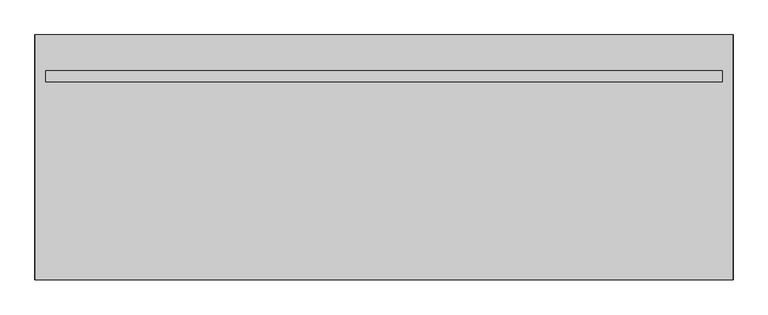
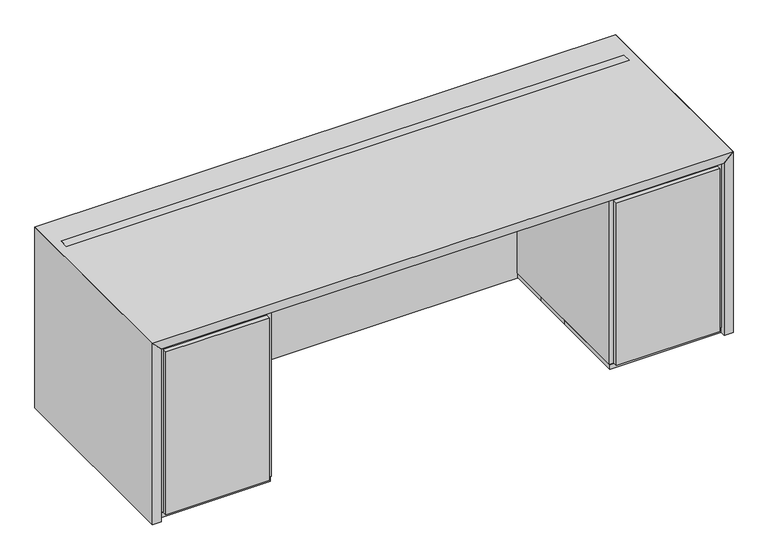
"""IFC4 building model written with IfcOpenShell, lengths in millimetres: proxy geometry, SALUTE^RECEPT_32x97 BASE-PARTS SOLID."""

from ifc_helpers import new_model, si_unit, frame, origin, place, context, project, spatial, polyline, outline, extrude, source, transform, mapped, element, save


def generic_models_c95edcf3(model_context):
    return source(origin(), model_context, "Body", "SweptSolid", [
        extrude(outline(polyline([(2425.7, 19.05), (2406.65, 19.05), (2406.65, 698.5), (2425.7, 698.5), (2425.7, 19.05)])), frame((0.0, 0.0, -749.3), z_axis=(0.0, 0.0, 1.0), x_axis=(1.0, 0.0, 0.0)), (0.0, 0.0, 1.0), 749.3),
        extrude(outline(polyline([(0.0, 2425.7), (-774.7, 2425.7), (-774.7, 2463.8), (38.1, 2463.8), (0.0, 2425.7)])), frame((0.0, 0.0, 0.0), z_axis=(0.0, 1.0, 0.0), x_axis=(0.0, 0.0, 1.0)), (0.0, 0.0, 1.0), 863.6),
        extrude(outline(polyline([(1968.5, 698.5), (2406.65, 698.5), (2406.65, 679.45), (1968.5, 679.45), (1968.5, 698.5)])), frame((0.0, 0.0, -749.3), z_axis=(0.0, 0.0, 1.0), x_axis=(1.0, 0.0, 0.0)), (0.0, 0.0, 1.0), 730.25),
        extrude(outline(polyline([(57.15, 19.05), (57.15, 698.5), (495.3, 698.5), (495.3, 19.05), (57.15, 19.05)])), frame((0.0, 0.0, -19.05), z_axis=(0.0, 0.0, 1.0), x_axis=(1.0, 0.0, 0.0)), (0.0, 0.0, 1.0), 19.05),
        extrude(outline(polyline([(2423.31875, 354.80625), (1951.83125, 354.80625), (1951.83125, 524.271875), (2423.31875, 524.271875), (2423.31875, 354.80625)])), frame((0.0, 0.0, -771.525), z_axis=(0.0, 0.0, 1.0), x_axis=(1.0, 0.0, 0.0)), (0.0, 0.0, 1.0), 19.05),
        extrude(outline(polyline([(57.15, 698.5), (495.3, 698.5), (495.3, 679.45), (57.15, 679.45), (57.15, 698.5)])), frame((0.0, 0.0, -749.3), z_axis=(0.0, 0.0, 1.0), x_axis=(1.0, 0.0, 0.0)), (0.0, 0.0, 1.0), 730.25),
        extrude(outline(polyline([(38.1, 698.5), (57.15, 698.5), (57.15, 19.05), (38.1, 19.05), (38.1, 698.5)])), frame((0.0, 0.0, -749.3), z_axis=(0.0, 0.0, 1.0), x_axis=(1.0, 0.0, 0.0)), (0.0, 0.0, 1.0), 749.3),
        extrude(outline(polyline([(38.1, 698.5), (38.1, 736.6), (2425.7, 736.6), (2425.7, 698.5), (38.1, 698.5)])), frame((0.0, 0.0, -774.7), z_axis=(0.0, 0.0, 1.0), x_axis=(1.0, 0.0, 0.0)), (0.0, 0.0, 1.0), 812.8),
        extrude(outline(polyline([(511.96875, 696.11875), (511.96875, 19.05), (40.48125, 19.05), (40.48125, 696.11875), (511.96875, 696.11875)])), frame((0.0, 0.0, -771.525), z_axis=(0.0, 0.0, 1.0), x_axis=(1.0, 0.0, 0.0)), (0.0, 0.0, 1.0), 19.05),
        extrude(outline(polyline([(2406.65, 698.5), (2406.65, 19.05), (1968.5, 19.05), (1968.5, 698.5), (2406.65, 698.5)])), frame((0.0, 0.0, -19.05), z_axis=(0.0, 0.0, 1.0), x_axis=(1.0, 0.0, 0.0)), (0.0, 0.0, 1.0), 19.05),
        extrude(outline(polyline([(495.3, 38.1), (495.3, 0.0), (57.15, 0.0), (57.15, 38.1), (495.3, 38.1)])), frame((0.0, 0.0, -749.3), z_axis=(0.0, 0.0, 1.0), x_axis=(1.0, 0.0, 0.0)), (0.0, 0.0, 1.0), 730.25),
        extrude(outline(polyline([(2406.65, 38.1), (2406.65, 0.0), (1968.5, 0.0), (1968.5, 38.1), (2406.65, 38.1)])), frame((0.0, 0.0, -749.3), z_axis=(0.0, 0.0, 1.0), x_axis=(1.0, 0.0, 0.0)), (0.0, 0.0, 1.0), 730.25),
        extrude(outline(polyline([(2423.31875, 526.653125), (1951.83125, 526.653125), (1951.83125, 696.11875), (2423.31875, 696.11875), (2423.31875, 526.653125)])), frame((0.0, 0.0, -771.525), z_axis=(0.0, 0.0, 1.0), x_axis=(1.0, 0.0, 0.0)), (0.0, 0.0, 1.0), 19.05),
        extrude(outline(polyline([(38.1, 0.0), (-774.7, 0.0), (-774.7, 38.1), (0.0, 38.1), (38.1, 0.0)])), frame((0.0, 0.0, 0.0), z_axis=(0.0, 1.0, 0.0), x_axis=(0.0, 0.0, 1.0)), (0.0, 0.0, 1.0), 863.6),
        extrude(outline(polyline([(495.3, 19.05), (495.3, 698.5), (514.35, 698.5), (514.35, 19.05), (495.3, 19.05)])), frame((0.0, 0.0, -749.3), z_axis=(0.0, 0.0, 1.0), x_axis=(1.0, 0.0, 0.0)), (0.0, 0.0, 1.0), 749.3),
        extrude(outline(polyline([(1968.5, 698.5), (1968.5, 19.05), (1949.45, 19.05), (1949.45, 698.5), (1968.5, 698.5)])), frame((0.0, 0.0, -749.3), z_axis=(0.0, 0.0, 1.0), x_axis=(1.0, 0.0, 0.0)), (0.0, 0.0, 1.0), 749.3),
        extrude(outline(polyline([(2423.31875, 352.425), (2423.31875, 19.05), (1951.83125, 19.05), (1951.83125, 352.425), (2423.31875, 352.425)])), frame((0.0, 0.0, -771.525), z_axis=(0.0, 0.0, 1.0), x_axis=(1.0, 0.0, 0.0)), (0.0, 0.0, 1.0), 19.05),
        extrude(outline(polyline([(38.1, 0.0), (0.0, 38.1), (0.0, 2425.7), (38.1, 2463.8), (38.1, 0.0)])), frame((0.0, 0.0, 0.0), z_axis=(0.0, 1.0, 0.0), x_axis=(0.0, 0.0, 1.0)), (0.0, 0.0, 1.0), 863.6),
    ])


if __name__ == "__main__":
    model = new_model("IFC4")
    model_context = context("Model", 3, world=origin())
    ifc_project = project(units=[si_unit("LENGTHUNIT", "METRE", prefix="MILLI")], contexts=[model_context])
    site = spatial("IfcSite", under=ifc_project)
    building = spatial("IfcBuilding", under=site)
    placement = place(None, origin())
    generic_models_shape = generic_models_c95edcf3(model_context)
    element("IfcBuildingElementProxy", 1, Name="SALUTE^RECEPT_32x97 BASE-PARTS SOLID", ObjectType="SALUTE^RECEPT_32x97 BASE-PARTS SOLID", at=placement, inside=building, context=model_context, shape_type="MappedRepresentation", body=[
        mapped(generic_models_shape, transform((0.0, 0.0, 0.0), x_axis=(1.0, 0.0, 0.0), y_axis=(0.0, 1.0, 0.0), z_axis=(0.0, 0.0, 1.0))),
    ])
    save(model, "model.ifc")
